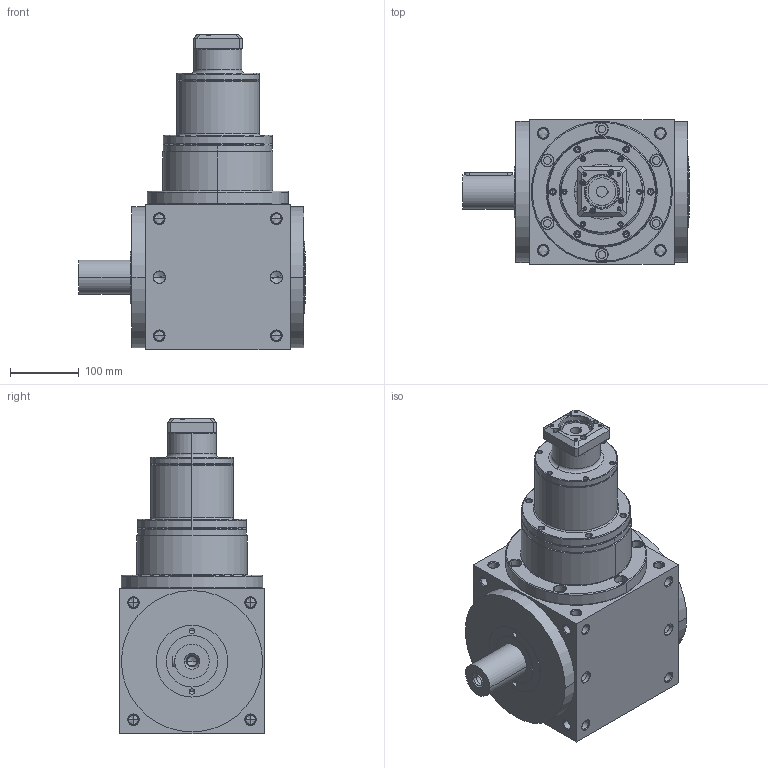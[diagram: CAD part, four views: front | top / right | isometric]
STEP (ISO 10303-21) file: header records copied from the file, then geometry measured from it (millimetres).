
FILE_DESCRIPTION((''),'2;1');
FILE_NAME('AT210FL13-P0405200304_ASM','2009-01-20T',('d00176'),(''),'PRO/ENGINEER BY PARAMETRIC TECHNOLOGY CORPORATION, 2006170','PRO/ENGINEER BY PARAMETRIC TECHNOLOGY CORPORATION, 2006170','');
FILE_SCHEMA(('CONFIG_CONTROL_DESIGN'));
Length unit declared in the file: millimetre
Products named in the file (6): ATFL1-HOUSING-3-8; P1801800001; P0226800002; P0227800001; P0405200304; AT210FL13-P0405200304_ASM
Assembly tree (5 placements, depth 2):
  AT210FL13-P0405200304_ASM
    ATFL1-HOUSING-3-8
    P1801800001
    P0226800002
    P0227800001
    P0405200304
Bounding box: 329 x 210 x 457.5 mm (x, y, z)
Volume: 12482583.7 mm3; surface area: 692636.7 mm2
Topology: 5 solids, 50 shells, 924 faces, 2243 edges, 1318 vertices
Faces by surface type: cylinder 400, cone 342, plane 118, torus 60, bspline 4
Entity records: 27478 total; most frequent: CARTESIAN_POINT 5662, DIRECTION 4987, ORIENTED_EDGE 4090, EDGE_CURVE 2135, AXIS2_PLACEMENT_3D 2097, VERTEX_POINT 1318, CIRCLE 1156, EDGE_LOOP 1107
